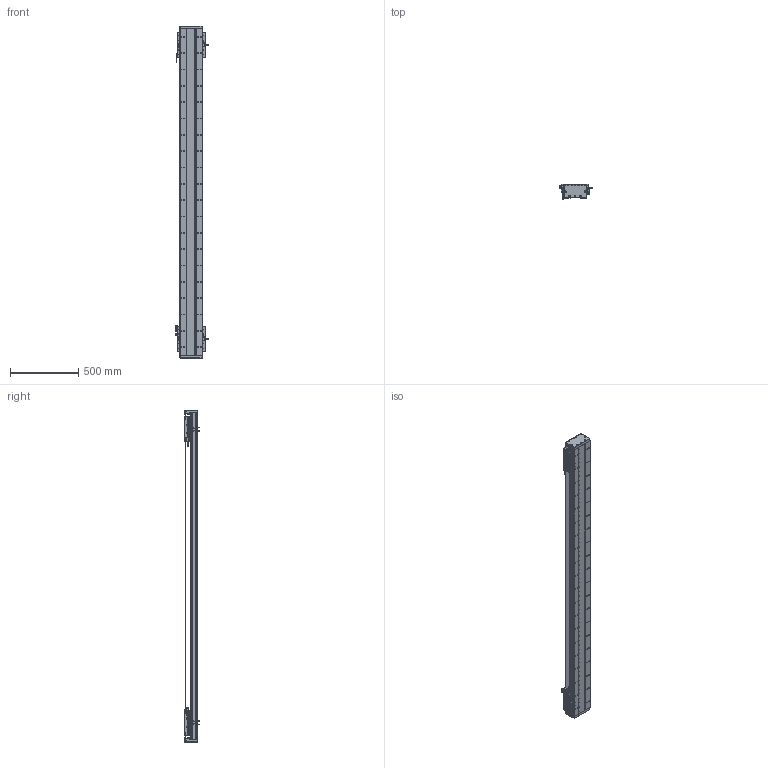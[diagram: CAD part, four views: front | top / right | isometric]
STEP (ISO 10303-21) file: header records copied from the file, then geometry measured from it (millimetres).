
FILE_DESCRIPTION (( 'STEP AP203' ), '1' );
FILE_NAME ('DA-C165-2-C2-T1940-C010-0.2 直线电机.STEP', '2023-05-11T08:25:39', ( '微软用户' ), ( '微软中国' ), 'SwSTEP 2.0', 'SolidWorks 2019', '' );
FILE_SCHEMA (( 'CONFIG_CONTROL_DESIGN' ));
Length unit declared in the file: millimetre
Products named in the file (22): 复件 CKM02-W075-C1C2-TP-3.0 一体电机-C2^DA-C165-C2-T-C010-0.2-N 直线电机; 葩璃 PM-Y45^DA-C165-C2-T-C010-0.2-N 眻盄萇儂; 复件 CU165钢带组件^DA-C165-C2-T-C010-0.2-N 直线电机; 珨极趙賑雄怢啣wf-C2; IU-CU165-L-00 菁釱_L2400; 复件 六角薄螺母 M3^DA-C165-C2-T-C010-0.2-N 直线电机_GB_FASTENER_NUT_STNAB M3-C; 复件 DA126-GYP-ZJ-00 中间光电感应片^DA-C165-C2-T-C010-0.2-N 直线电机; 复件 DA165-GD-DG-H-00 端盖^复件 CU165钢带组件_DA-C165-C2-T-C010-0.2-N 直线电机; 复件 DA165-GDYK-00 钢带压块^复件 CU165钢带组件_DA-C165-C2-T-C010-0.2-N 直线电机; 葩璃 DA95-GT-T-00^IU-CU165-L 菁釱絳寢_T; 复件 XD-U-02L 磁栅尺^DA-C165-C2-T-C010-0.2-N 直线电机_T; DA-C165-2-C2-T1940-C010-0.2 眻盄萇儂; 复件 DA165-GYP-00 光电感应片^DA-C165-C2-T-C010-0.2-N 直线电机; IU-CU165-L 菁釱絳寢; 葩璃 CKM01-W075-TRL^DA-C165-C2-T-C010-0.2-N 眻盄萇儂; 复件 DA95-HXJ-00 缓冲橡胶^DA-C165-C2-T-C010-0.2-N 直线电机; 复件 DA165-GDLK-00 钢带拉块^复件 CU165钢带组件_DA-C165-C2-T-C010-0.2-N 直线电机; 葩璃 PM-T45^DA-C165-C2-T-C010-0.2-N 眻盄萇儂; 复件 66338-1000-006-00 光电感应块^DA-C165-C2-T-C010-0.2-N 直线电机; 复件 DA165-GD-1860-002-00 钢带盖板^复件 CU165钢带组件_DA-C165-C2-T-C010-0.2-N 直线电机; 复件 DKW-HXJ-JY-00 缓冲橡胶^DA-C165-C2-T-C010-0.2-N 直线电机; 复件 DMA-010-0.2 读数头^DA-C165-C2-T-C010-0.2-N 直线电机
Assembly tree (43 placements, depth 3):
  DA-C165-2-C2-T1940-C010-0.2 眻盄萇儂
    IU-CU165-L 菁釱絳寢
      IU-CU165-L-00 菁釱_L2400
      葩璃 DA95-GT-T-00^IU-CU165-L 菁釱絳寢_T  x4
    复件 XD-U-02L 磁栅尺^DA-C165-C2-T-C010-0.2-N 直线电机_T
    葩璃 PM-T45^DA-C165-C2-T-C010-0.2-N 眻盄萇儂  x4
    葩璃 CKM01-W075-TRL^DA-C165-C2-T-C010-0.2-N 眻盄萇儂
    复件 CU165钢带组件^DA-C165-C2-T-C010-0.2-N 直线电机
      复件 DA165-GD-DG-H-00 端盖^复件 CU165钢带组件_DA-C165-C2-T-C010-0.2-N 直线电机  x2
      复件 DA165-GDYK-00 钢带压块^复件 CU165钢带组件_DA-C165-C2-T-C010-0.2-N 直线电机  x2
      复件 DA165-GD-1860-002-00 钢带盖板^复件 CU165钢带组件_DA-C165-C2-T-C010-0.2-N 直线电机
      复件 DA165-GDLK-00 钢带拉块^复件 CU165钢带组件_DA-C165-C2-T-C010-0.2-N 直线电机  x2
    复件 DA95-HXJ-00 缓冲橡胶^DA-C165-C2-T-C010-0.2-N 直线电机  x4
    复件 CKM02-W075-C1C2-TP-3.0 一体电机-C2^DA-C165-C2-T-C010-0.2-N 直线电机  x2
    复件 DMA-010-0.2 读数头^DA-C165-C2-T-C010-0.2-N 直线电机  x2
    复件 DA165-GYP-00 光电感应片^DA-C165-C2-T-C010-0.2-N 直线电机  x2
    复件 66338-1000-006-00 光电感应块^DA-C165-C2-T-C010-0.2-N 直线电机
    葩璃 PM-Y45^DA-C165-C2-T-C010-0.2-N 眻盄萇儂
    复件 DA126-GYP-ZJ-00 中间光电感应片^DA-C165-C2-T-C010-0.2-N 直线电机
    复件 DKW-HXJ-JY-00 缓冲橡胶^DA-C165-C2-T-C010-0.2-N 直线电机  x2
    复件 六角薄螺母 M3^DA-C165-C2-T-C010-0.2-N 直线电机_GB_FASTENER_NUT_STNAB M3-C  x6
    珨极趙賑雄怢啣wf-C2  x2
Bounding box: 247.2 x 111.45 x 2440 mm (x, y, z)
Volume: 15314657.1 mm3; surface area: 4409599 mm2
Topology: 119 solids, 119 shells, 5555 faces, 15506 edges, 9770 vertices
Faces by surface type: cylinder 2964, plane 1799, cone 704, torus 80, sphere 8
Entity records: 130994 total; most frequent: CARTESIAN_POINT 34425, ORIENTED_EDGE 19956, DIRECTION 19362, EDGE_CURVE 9978, AXIS2_PLACEMENT_3D 7340, VERTEX_POINT 6507, LINE 4682, VECTOR 4682
